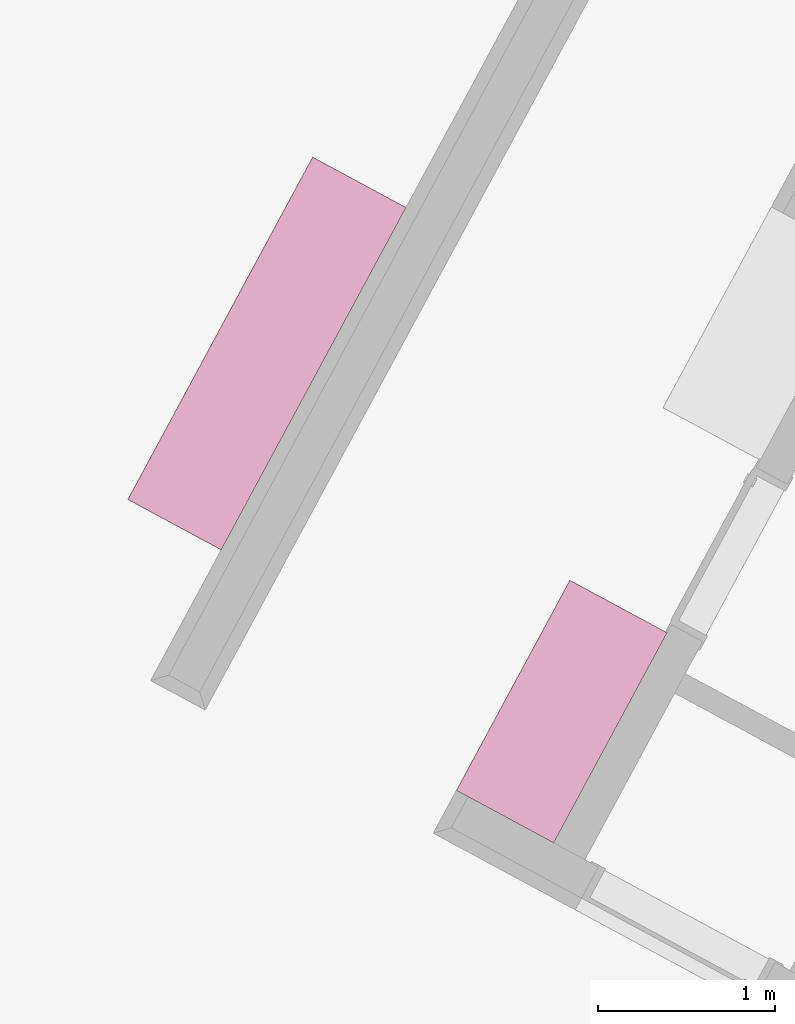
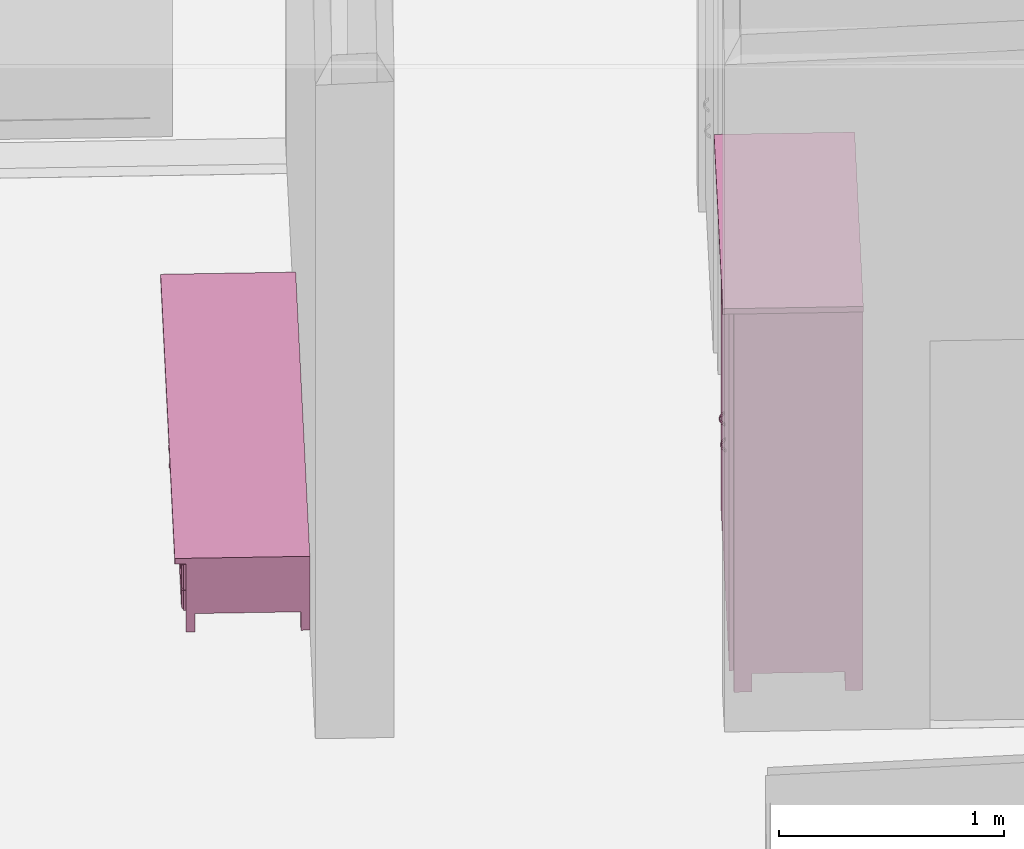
# One storey, part 29 of 36: 2 furnishings.
"""IFC2X3 building model written with IfcOpenShell, lengths in metres."""

from ifc_helpers import new_model, entity, si_unit, converted_unit, derived_unit, money_unit, direction, frame, origin_with_axes, place, context, subcontext, project, spatial, faceted_brep, type_object, element, save


model = new_model("IFC2X3")

# Units and contexts
model_context = context("Model", 3, precision=1e-05, world=origin_with_axes(), true_north=direction((0.0, 1.0)))
body_context = subcontext(model_context, "Body", "Model", "MODEL_VIEW")
ifc_project = project(units=[si_unit("LENGTHUNIT", "METRE"), si_unit("AREAUNIT", "SQUARE_METRE"), si_unit("VOLUMEUNIT", "CUBIC_METRE"), converted_unit("PLANEANGLEUNIT", "DEGREE", entity("IfcPlaneAngleMeasure", 0.0174532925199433), si_unit("PLANEANGLEUNIT", "RADIAN"), dimensions=[0, 0, 0, 0, 0, 0, 0]), money_unit("EUR"), converted_unit("TIMEUNIT", "Year", entity("IfcTimeMeasure", 31556926.0), si_unit("TIMEUNIT", "SECOND"), dimensions=[0, 0, 1, 0, 0, 0, 0]), si_unit("MASSUNIT", "GRAM", prefix="KILO"), si_unit("THERMODYNAMICTEMPERATUREUNIT", "DEGREE_CELSIUS"), si_unit("LUMINOUSINTENSITYUNIT", "LUMEN"), si_unit("ENERGYUNIT", "JOULE", prefix="MEGA"), derived_unit("THERMALCONDUCTANCEUNIT", [(si_unit("POWERUNIT", "WATT"), 1), (si_unit("LENGTHUNIT", "METRE"), -1), (si_unit("THERMODYNAMICTEMPERATUREUNIT", "KELVIN"), -1)]), derived_unit("SPECIFICHEATCAPACITYUNIT", [(si_unit("ENERGYUNIT", "JOULE"), 1), (si_unit("MASSUNIT", "GRAM", prefix="KILO"), -1), (si_unit("THERMODYNAMICTEMPERATUREUNIT", "KELVIN"), -1)]), derived_unit("MASSDENSITYUNIT", [(si_unit("MASSUNIT", "GRAM", prefix="KILO"), 1), (si_unit("VOLUMEUNIT", "CUBIC_METRE"), -1)])], contexts=[model_context])

# Site, building, storey
site_placement = place(None, frame((-3.949935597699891, 1.740105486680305, 0.0), z_axis=(0.0, 0.0, 1.0), x_axis=(0.8799804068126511, -0.475009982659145, 0.0)))
site = spatial("IfcSite", under=ifc_project, at=site_placement, Name="Gelände", CompositionType="ELEMENT")
building_placement = place(site_placement, origin_with_axes())
building = spatial("IfcBuilding", under=site, at=building_placement, Name="Gebäude", CompositionType="ELEMENT")
storey_placement = place(building_placement, origin_with_axes())
storey = spatial("IfcBuildingStorey", under=building, at=storey_placement, Name="Erdgeschoss", CompositionType="ELEMENT", Elevation=0.0)

# Furnishings
furniture_type_1 = type_object("IfcFurnitureType", Name="Kleiderschrank 22", AssemblyPlace="NOTDEFINED")
furnishing_1_placement = place(storey_placement, frame((15.16082818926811, 4.328482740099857, 0.0), z_axis=(0.0, 0.0, 1.0), x_axis=(0.0, -1.0, 0.0)))
element("IfcFurnishingElement", 1, at=furnishing_1_placement, inside=storey, type_object=furniture_type_1, Name="Objekt-0067", ObjectType="FURNITURE", context=body_context, shape_type="Brep", body=[
    faceted_brep([(0.05000000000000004, 0.6246501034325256, 0.12), (0.05000000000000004, 0.6046501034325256, 0.12), (0.05000000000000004, 0.6046501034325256, 2.05), (0.05000000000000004, 0.6246501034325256, 2.05), (1.3, 0.6246501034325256, 0.12), (1.3, 0.6046501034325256, 0.12), (1.3, 0.6046501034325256, 2.05), (1.3, 0.6246501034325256, 2.05)], [[[0, 1, 2, 3]], [[0, 4, 5, 1]], [[1, 5, 6, 2]], [[3, 2, 6, 7]], [[4, 0, 3, 7]], [[5, 4, 7, 6]]]),
    faceted_brep([(1.32, 0.05000000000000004, 0.1), (1.3, 0.05000000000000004, 0.1), (1.3, 0.6246501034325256, 0.1), (1.32, 0.6246501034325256, 0.1), (1.32, 0.05000000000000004, 2.07), (1.3, 0.05000000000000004, 2.07), (1.3, 0.6246501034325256, 2.07), (1.32, 0.6246501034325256, 2.07)], [[[0, 1, 2, 3]], [[1, 0, 4, 5]], [[2, 1, 5, 6]], [[3, 2, 6, 7]], [[0, 3, 7, 4]], [[5, 4, 7, 6]]]),
    faceted_brep([(0.05000000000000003, 0.05000000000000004, 0.1), (0.03000000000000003, 0.05000000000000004, 0.1), (0.03000000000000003, 0.6246501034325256, 0.1), (0.05000000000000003, 0.6246501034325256, 0.1), (0.05000000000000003, 0.05000000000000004, 2.07), (0.03000000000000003, 0.05000000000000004, 2.07), (0.03000000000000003, 0.6246501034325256, 2.07), (0.05000000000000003, 0.6246501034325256, 2.07)], [[[0, 1, 2, 3]], [[1, 0, 4, 5]], [[2, 1, 5, 6]], [[3, 2, 6, 7]], [[0, 3, 7, 4]], [[5, 4, 7, 6]]]),
    faceted_brep([(1.3, 0.05000000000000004, 0.1), (0.05000000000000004, 0.05000000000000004, 0.1), (0.05000000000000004, 0.6246501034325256, 0.1), (1.3, 0.6246501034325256, 0.1), (1.3, 0.05000000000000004, 0.12), (0.05000000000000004, 0.05000000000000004, 0.12), (0.05000000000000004, 0.6246501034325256, 0.12), (1.3, 0.6246501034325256, 0.12)], [[[0, 1, 2, 3]], [[1, 0, 4, 5]], [[2, 1, 5, 6]], [[3, 2, 6, 7]], [[0, 3, 7, 4]], [[5, 4, 7, 6]]]),
    faceted_brep([(1.3, 0.05000000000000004, 2.05), (0.05000000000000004, 0.05000000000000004, 2.05), (0.05000000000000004, 0.6246501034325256, 2.05), (1.3, 0.6246501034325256, 2.05), (1.3, 0.05000000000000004, 2.07), (0.05000000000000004, 0.05000000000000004, 2.07), (0.05000000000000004, 0.6246501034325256, 2.07), (1.3, 0.6246501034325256, 2.07)], [[[0, 1, 2, 3]], [[1, 0, 4, 5]], [[2, 1, 5, 6]], [[3, 2, 6, 7]], [[0, 3, 7, 4]], [[5, 4, 7, 6]]]),
    faceted_brep([(1.35, 0.6246501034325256, 2.07), (1.35, 0.6246501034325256, 2.1), (1.35, 0.0, 2.1), (1.35, 0.0, 2.07), (0.0, 0.6246501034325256, 2.07), (0.0, 0.6246501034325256, 2.1), (0.0, 0.0, 2.1), (0.0, 0.0, 2.07)], [[[0, 1, 2, 3]], [[4, 5, 1, 0]], [[1, 5, 6, 2]], [[3, 2, 6, 7]], [[0, 3, 7, 4]], [[7, 6, 5, 4]]]),
    faceted_brep([(0.1100000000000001, 0.5446501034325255, 0.0), (0.1100000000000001, 0.6246501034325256, 0.0), (0.1100000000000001, 0.6246501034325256, 0.1), (0.1100000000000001, 0.5446501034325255, 0.1), (0.03000000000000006, 0.5446501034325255, 0.0), (0.03000000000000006, 0.6246501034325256, 0.0), (0.03000000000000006, 0.6246501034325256, 0.1), (0.03000000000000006, 0.5446501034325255, 0.1)], [[[0, 1, 2, 3]], [[0, 4, 5, 1]], [[1, 5, 6, 2]], [[3, 2, 6, 7]], [[4, 0, 3, 7]], [[5, 4, 7, 6]]]),
    faceted_brep([(1.32, 0.5446501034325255, 0.0), (1.32, 0.6246501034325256, 0.0), (1.32, 0.6246501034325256, 0.1), (1.32, 0.5446501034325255, 0.1), (1.24, 0.5446501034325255, 0.0), (1.24, 0.6246501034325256, 0.0), (1.24, 0.6246501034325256, 0.1), (1.24, 0.5446501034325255, 0.1)], [[[0, 1, 2, 3]], [[0, 4, 5, 1]], [[1, 5, 6, 2]], [[3, 2, 6, 7]], [[4, 0, 3, 7]], [[5, 4, 7, 6]]]),
    faceted_brep([(0.1100000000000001, 0.05000000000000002, 0.0), (0.1100000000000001, 0.13, 0.0), (0.1100000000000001, 0.13, 0.1), (0.1100000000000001, 0.05000000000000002, 0.1), (0.03000000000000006, 0.05000000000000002, 0.0), (0.03000000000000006, 0.13, 0.0), (0.03000000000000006, 0.13, 0.1), (0.03000000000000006, 0.05000000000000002, 0.1)], [[[0, 1, 2, 3]], [[0, 4, 5, 1]], [[1, 5, 6, 2]], [[3, 2, 6, 7]], [[4, 0, 3, 7]], [[5, 4, 7, 6]]]),
    faceted_brep([(1.32, 0.05000000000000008, 0.0), (1.32, 0.1300000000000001, 0.0), (1.32, 0.1300000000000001, 0.1), (1.32, 0.05000000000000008, 0.1), (1.24, 0.05000000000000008, 0.0), (1.24, 0.1300000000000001, 0.0), (1.24, 0.1300000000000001, 0.1), (1.24, 0.05000000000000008, 0.1)], [[[0, 1, 2, 3]], [[0, 4, 5, 1]], [[1, 5, 6, 2]], [[3, 2, 6, 7]], [[4, 0, 3, 7]], [[5, 4, 7, 6]]]),
    faceted_brep([(0.04049999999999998, 0.05, 0.1104999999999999), (0.6744999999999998, 0.05, 0.1104999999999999), (0.6744999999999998, 0.03, 0.1104999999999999), (0.04049999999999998, 0.03, 0.1104999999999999), (0.04049999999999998, 0.05000000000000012, 2.0595), (0.6744999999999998, 0.05000000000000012, 2.0595), (0.6744999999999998, 0.03000000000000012, 2.0595), (0.04049999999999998, 0.03000000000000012, 2.0595)], [[[0, 1, 2, 3]], [[0, 4, 5, 1]], [[1, 5, 6, 2]], [[3, 2, 6, 7]], [[4, 0, 3, 7]], [[5, 4, 7, 6]]]),
    faceted_brep([(0.6119262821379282, 0.03, 0.955), (0.6119262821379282, 0.03, 0.965), (0.6239984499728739, 0.03, 0.965), (0.6239984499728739, 0.03, 0.955), (0.600825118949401, 0.01914952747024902, 0.965), (0.600825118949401, 0.01914952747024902, 0.955), (0.5471748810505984, 0.01914952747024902, 0.965), (0.5360737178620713, 0.03, 0.965), (0.5240015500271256, 0.03, 0.965), (0.5389716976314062, 0.01692943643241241, 0.965), (0.5559650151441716, 0.008772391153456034, 0.965), (0.5739999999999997, 0.006000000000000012, 0.965), (0.5920349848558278, 0.008772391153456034, 0.965), (0.6090283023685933, 0.01692943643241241, 0.965), (0.5878878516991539, 0.01232720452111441, 0.965), (0.5739999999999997, 0.009999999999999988, 0.965), (0.5601121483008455, 0.01232720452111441, 0.965), (0.6090283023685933, 0.01692943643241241, 0.955), (0.5920349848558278, 0.008772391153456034, 0.955), (0.5739999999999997, 0.006000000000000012, 0.955), (0.5559650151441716, 0.008772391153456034, 0.955), (0.5389716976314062, 0.01692943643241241, 0.955), (0.5240015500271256, 0.03, 0.955), (0.5360737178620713, 0.03, 0.955), (0.5471748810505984, 0.01914952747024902, 0.955), (0.5601121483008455, 0.01232720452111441, 0.955), (0.5739999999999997, 0.009999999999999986, 0.955), (0.5878878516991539, 0.01232720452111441, 0.955)], [[[0, 1, 2, 3]], [[4, 1, 0, 5]], [[6, 7, 8, 9, 10, 11, 12, 13, 2, 1, 4, 14, 15, 16]], [[13, 17, 3, 2]], [[5, 0, 3, 17, 18, 19, 20, 21, 22, 23, 24, 25, 26, 27]], [[14, 4, 5, 27]], [[7, 6, 24, 23]], [[7, 23, 22, 8]], [[8, 22, 21, 9]], [[9, 21, 20, 10]], [[10, 20, 19, 11]], [[11, 19, 18, 12]], [[12, 18, 17, 13]], [[15, 14, 27, 26]], [[16, 15, 26, 25]], [[6, 16, 25, 24]]]),
    faceted_brep([(0.6764999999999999, 0.05, 0.1104999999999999), (1.3105, 0.05, 0.1104999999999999), (1.3105, 0.03, 0.1104999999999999), (0.6764999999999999, 0.03, 0.1104999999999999), (0.6764999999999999, 0.05000000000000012, 2.0595), (1.3105, 0.05000000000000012, 2.0595), (1.3105, 0.03000000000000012, 2.0595), (0.6764999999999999, 0.03000000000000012, 2.0595)], [[[0, 1, 2, 3]], [[0, 4, 5, 1]], [[1, 5, 6, 2]], [[3, 2, 6, 7]], [[4, 0, 3, 7]], [[5, 4, 7, 6]]]),
    faceted_brep([(0.8139262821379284, 0.03, 0.955), (0.8139262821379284, 0.03, 0.965), (0.8259984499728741, 0.03, 0.965), (0.8259984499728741, 0.03, 0.955), (0.8028251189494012, 0.01914952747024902, 0.965), (0.8028251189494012, 0.01914952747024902, 0.955), (0.7491748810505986, 0.01914952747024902, 0.965), (0.7380737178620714, 0.03, 0.965), (0.7260015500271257, 0.03, 0.965), (0.7409716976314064, 0.01692943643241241, 0.965), (0.7579650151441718, 0.008772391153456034, 0.965), (0.7759999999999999, 0.006000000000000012, 0.965), (0.794034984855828, 0.008772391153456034, 0.965), (0.8110283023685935, 0.01692943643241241, 0.965), (0.7898878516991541, 0.01232720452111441, 0.965), (0.7759999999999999, 0.009999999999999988, 0.965), (0.7621121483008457, 0.01232720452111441, 0.965), (0.8110283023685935, 0.01692943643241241, 0.955), (0.794034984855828, 0.008772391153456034, 0.955), (0.7759999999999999, 0.006000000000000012, 0.955), (0.7579650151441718, 0.008772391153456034, 0.955), (0.7409716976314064, 0.01692943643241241, 0.955), (0.7260015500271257, 0.03, 0.955), (0.7380737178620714, 0.03, 0.955), (0.7491748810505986, 0.01914952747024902, 0.955), (0.7621121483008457, 0.01232720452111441, 0.955), (0.7759999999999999, 0.009999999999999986, 0.955), (0.7898878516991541, 0.01232720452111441, 0.955)], [[[0, 1, 2, 3]], [[4, 1, 0, 5]], [[6, 7, 8, 9, 10, 11, 12, 13, 2, 1, 4, 14, 15, 16]], [[17, 3, 2, 13]], [[5, 0, 3, 17, 18, 19, 20, 21, 22, 23, 24, 25, 26, 27]], [[14, 4, 5, 27]], [[7, 6, 24, 23]], [[7, 23, 22, 8]], [[22, 21, 9, 8]], [[21, 20, 10, 9]], [[20, 19, 11, 10]], [[19, 18, 12, 11]], [[18, 17, 13, 12]], [[15, 14, 27, 26]], [[16, 15, 26, 25]], [[6, 16, 25, 24]]]),
])
furniture_type_2 = type_object("IfcFurnitureType", Name="Sideboard 22", AssemblyPlace="NOTDEFINED")
furnishing_2_placement = place(storey_placement, frame((12.74418401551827, 5.743410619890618, 0.0), z_axis=(0.0, 0.0, 1.0), x_axis=(0.0, -1.0, 0.0)))
element("IfcFurnishingElement", 2, at=furnishing_2_placement, inside=storey, type_object=furniture_type_2, Name="Objekt-0067", ObjectType="FURNITURE", context=body_context, shape_type="Brep", body=[
    faceted_brep([(2.18, 0.5999999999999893, 0.12), (2.18, 0.5999999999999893, 0.35), (2.18, 0.5799999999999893, 0.35), (2.18, 0.5799999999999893, 0.12), (0.02000000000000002, 0.5999999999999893, 0.12), (0.02000000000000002, 0.5999999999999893, 0.35), (0.02000000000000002, 0.5799999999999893, 0.35), (0.02000000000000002, 0.5799999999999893, 0.12)], [[[0, 1, 2, 3]], [[4, 5, 1, 0]], [[1, 5, 6, 2]], [[3, 2, 6, 7]], [[0, 3, 7, 4]], [[7, 6, 5, 4]]]),
    faceted_brep([(0.0, 0.05000000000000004, 0.1), (0.0, 0.5999999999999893, 0.1), (0.02000000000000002, 0.5999999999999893, 0.1), (0.02000000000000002, 0.05000000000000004, 0.1), (0.0, 0.05000000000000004, 0.37), (0.0, 0.5999999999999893, 0.37), (0.02000000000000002, 0.5999999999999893, 0.37), (0.02000000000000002, 0.05000000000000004, 0.37)], [[[0, 1, 2, 3]], [[0, 4, 5, 1]], [[1, 5, 6, 2]], [[2, 6, 7, 3]], [[3, 7, 4, 0]], [[7, 6, 5, 4]]]),
    faceted_brep([(2.18, 0.05000000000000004, 0.1), (2.18, 0.5999999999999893, 0.1), (2.2, 0.5999999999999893, 0.1), (2.2, 0.05000000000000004, 0.1), (2.18, 0.05000000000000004, 0.37), (2.18, 0.5999999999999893, 0.37), (2.2, 0.5999999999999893, 0.37), (2.2, 0.05000000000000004, 0.37)], [[[0, 1, 2, 3]], [[0, 4, 5, 1]], [[1, 5, 6, 2]], [[2, 6, 7, 3]], [[3, 7, 4, 0]], [[7, 6, 5, 4]]]),
    faceted_brep([(0.02000000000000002, 0.05000000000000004, 0.1), (0.02000000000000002, 0.5999999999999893, 0.1), (2.18, 0.5999999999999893, 0.1), (2.18, 0.05000000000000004, 0.1), (0.02000000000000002, 0.05000000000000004, 0.12), (0.02000000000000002, 0.5999999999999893, 0.12), (2.18, 0.5999999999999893, 0.12), (2.18, 0.05000000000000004, 0.12)], [[[0, 1, 2, 3]], [[0, 4, 5, 1]], [[1, 5, 6, 2]], [[2, 6, 7, 3]], [[3, 7, 4, 0]], [[7, 6, 5, 4]]]),
    faceted_brep([(0.02000000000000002, 0.05000000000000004, 0.35), (0.02000000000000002, 0.5999999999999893, 0.35), (2.18, 0.5999999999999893, 0.35), (2.18, 0.05000000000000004, 0.35), (0.02000000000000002, 0.05000000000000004, 0.37), (0.02000000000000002, 0.5999999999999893, 0.37), (2.18, 0.5999999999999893, 0.37), (2.18, 0.05000000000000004, 0.37)], [[[0, 1, 2, 3]], [[0, 4, 5, 1]], [[1, 5, 6, 2]], [[2, 6, 7, 3]], [[3, 7, 4, 0]], [[7, 6, 5, 4]]]),
    faceted_brep([(0.0, 0.5999999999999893, 0.37), (0.0, 0.0, 0.37), (0.0, 0.0, 0.4), (0.0, 0.5999999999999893, 0.4), (2.2, 0.5999999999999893, 0.37), (2.2, 0.0, 0.37), (2.2, 0.0, 0.4), (2.2, 0.5999999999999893, 0.4)], [[[0, 1, 2, 3]], [[0, 4, 5, 1]], [[1, 5, 6, 2]], [[3, 2, 6, 7]], [[4, 0, 3, 7]], [[5, 4, 7, 6]]]),
    faceted_brep([(2.16, 0.5599999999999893, 0.0), (2.16, 0.5599999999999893, 0.1), (2.16, 0.5999999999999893, 0.1), (2.16, 0.5999999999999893, 0.0), (2.2, 0.5599999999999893, 0.0), (2.2, 0.5599999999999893, 0.1), (2.2, 0.5999999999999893, 0.1), (2.2, 0.5999999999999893, 0.0)], [[[0, 1, 2, 3]], [[4, 5, 1, 0]], [[1, 5, 6, 2]], [[3, 2, 6, 7]], [[0, 3, 7, 4]], [[7, 6, 5, 4]]]),
    faceted_brep([(0.0, 0.5599999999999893, 0.0), (0.0, 0.5599999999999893, 0.1), (0.0, 0.5999999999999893, 0.1), (0.0, 0.5999999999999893, 0.0), (0.04000000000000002, 0.5599999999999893, 0.0), (0.04000000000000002, 0.5599999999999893, 0.1), (0.04000000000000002, 0.5999999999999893, 0.1), (0.04000000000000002, 0.5999999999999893, 0.0)], [[[0, 1, 2, 3]], [[4, 5, 1, 0]], [[1, 5, 6, 2]], [[3, 2, 6, 7]], [[0, 3, 7, 4]], [[7, 6, 5, 4]]]),
    faceted_brep([(2.16, 0.05000000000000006, 0.0), (2.16, 0.05000000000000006, 0.1), (2.16, 0.09000000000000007, 0.1), (2.16, 0.09000000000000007, 0.0), (2.2, 0.05000000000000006, 0.0), (2.2, 0.05000000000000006, 0.1), (2.2, 0.09000000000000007, 0.1), (2.2, 0.09000000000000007, 0.0)], [[[0, 1, 2, 3]], [[4, 5, 1, 0]], [[1, 5, 6, 2]], [[3, 2, 6, 7]], [[0, 3, 7, 4]], [[7, 6, 5, 4]]]),
    faceted_brep([(0.0, 0.05000000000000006, 0.0), (0.0, 0.05000000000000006, 0.1), (0.0, 0.09000000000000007, 0.1), (0.0, 0.09000000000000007, 0.0), (0.04000000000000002, 0.05000000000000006, 0.0), (0.04000000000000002, 0.05000000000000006, 0.1), (0.04000000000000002, 0.09000000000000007, 0.1), (0.04000000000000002, 0.09000000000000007, 0.0)], [[[0, 1, 2, 3]], [[4, 5, 1, 0]], [[1, 5, 6, 2]], [[3, 2, 6, 7]], [[0, 3, 7, 4]], [[7, 6, 5, 4]]]),
    faceted_brep([(2.189, 0.05000000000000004, 0.111), (1.101, 0.05000000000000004, 0.111), (1.101, 0.05000000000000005, 0.219), (2.189, 0.05000000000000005, 0.219), (2.189000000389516, 0.04000000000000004, 0.1109999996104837), (1.100999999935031, 0.04000000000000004, 0.1109999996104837), (1.100999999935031, 0.04000000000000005, 0.2189999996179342), (2.189000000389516, 0.04000000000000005, 0.2189999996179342), (2.179000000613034, 0.03000000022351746, 0.1209999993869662), (1.110999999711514, 0.03000000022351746, 0.1209999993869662), (1.110999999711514, 0.03000000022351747, 0.2089999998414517), (2.179000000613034, 0.03000000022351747, 0.2089999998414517)], [[[0, 1, 2, 3]], [[0, 4, 5, 1]], [[1, 5, 6, 2]], [[2, 6, 7, 3]], [[3, 7, 4, 0]], [[4, 8, 9, 5]], [[5, 9, 10, 6]], [[6, 10, 11, 7]], [[7, 11, 8, 4]], [[10, 9, 8, 11]]]),
    faceted_brep([(1.160607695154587, 0.03000000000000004, 0.175), (1.159, 0.03000000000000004, 0.181), (1.160607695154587, 0.03000000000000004, 0.187), (1.165, 0.03000000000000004, 0.1913923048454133), (1.171, 0.03000000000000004, 0.193), (1.177, 0.03000000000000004, 0.1913923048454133), (1.181392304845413, 0.03000000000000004, 0.187), (1.183, 0.03000000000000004, 0.181), (1.181392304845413, 0.03000000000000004, 0.175), (1.177, 0.03000000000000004, 0.1706076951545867), (1.171, 0.03000000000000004, 0.169), (1.165, 0.03000000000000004, 0.1706076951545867), (1.160607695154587, 0.005000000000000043, 0.175), (1.159, 0.005000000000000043, 0.181), (1.160607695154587, 0.005000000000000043, 0.187), (1.165, 0.005000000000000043, 0.1913923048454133), (1.171, 0.005000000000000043, 0.193), (1.177, 0.005000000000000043, 0.1913923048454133), (1.181392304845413, 0.005000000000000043, 0.187), (1.183, 0.005000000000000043, 0.181), (1.181392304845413, 0.005000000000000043, 0.175), (1.177, 0.005000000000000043, 0.1706076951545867), (1.171, 0.005000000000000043, 0.169), (1.165, 0.005000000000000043, 0.1706076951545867)], [[[0, 1, 2, 3, 4, 5, 6, 7, 8, 9, 10, 11]], [[0, 12, 13, 1]], [[1, 13, 14, 2]], [[2, 14, 15, 3]], [[3, 15, 16, 4]], [[4, 16, 17, 5]], [[5, 17, 18, 6]], [[6, 18, 19, 7]], [[7, 19, 20, 8]], [[8, 20, 21, 9]], [[9, 21, 22, 10]], [[10, 22, 23, 11]], [[11, 23, 12, 0]], [[12, 23, 22, 21, 20, 19, 18, 17, 16, 15, 14, 13]]]),
    faceted_brep([(0.0109999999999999, 0.05000000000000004, 0.111), (0.0109999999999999, 0.05000000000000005, 0.219), (1.099, 0.05000000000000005, 0.219), (1.099, 0.05000000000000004, 0.111), (0.01099999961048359, 0.04000000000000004, 0.1109999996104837), (0.01099999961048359, 0.04000000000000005, 0.2189999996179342), (1.099000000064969, 0.04000000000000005, 0.2189999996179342), (1.099000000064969, 0.04000000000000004, 0.1109999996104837), (0.02099999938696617, 0.03000000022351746, 0.1209999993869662), (0.02099999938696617, 0.03000000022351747, 0.2089999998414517), (1.089000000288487, 0.03000000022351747, 0.2089999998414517), (1.089000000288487, 0.03000000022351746, 0.1209999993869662)], [[[0, 1, 2, 3]], [[1, 0, 4, 5]], [[2, 1, 5, 6]], [[3, 2, 6, 7]], [[0, 3, 7, 4]], [[5, 4, 8, 9]], [[6, 5, 9, 10]], [[7, 6, 10, 11]], [[4, 7, 11, 8]], [[10, 9, 8, 11]]]),
    faceted_brep([(1.039392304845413, 0.03000000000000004, 0.175), (1.035, 0.03000000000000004, 0.1706076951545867), (1.029, 0.03000000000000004, 0.169), (1.023, 0.03000000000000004, 0.1706076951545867), (1.018607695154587, 0.03000000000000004, 0.175), (1.017, 0.03000000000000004, 0.181), (1.018607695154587, 0.03000000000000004, 0.187), (1.023, 0.03000000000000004, 0.1913923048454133), (1.029, 0.03000000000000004, 0.193), (1.035, 0.03000000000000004, 0.1913923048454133), (1.039392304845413, 0.03000000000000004, 0.187), (1.041, 0.03000000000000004, 0.181), (1.039392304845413, 0.005000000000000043, 0.175), (1.035, 0.005000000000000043, 0.1706076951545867), (1.029, 0.005000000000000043, 0.169), (1.023, 0.005000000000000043, 0.1706076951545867), (1.018607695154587, 0.005000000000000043, 0.175), (1.017, 0.005000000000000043, 0.181), (1.018607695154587, 0.005000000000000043, 0.187), (1.023, 0.005000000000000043, 0.1913923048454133), (1.029, 0.005000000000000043, 0.193), (1.035, 0.005000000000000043, 0.1913923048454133), (1.039392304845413, 0.005000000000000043, 0.187), (1.041, 0.005000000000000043, 0.181)], [[[0, 1, 2, 3, 4, 5, 6, 7, 8, 9, 10, 11]], [[1, 0, 12, 13]], [[2, 1, 13, 14]], [[3, 2, 14, 15]], [[4, 3, 15, 16]], [[5, 4, 16, 17]], [[6, 5, 17, 18]], [[7, 6, 18, 19]], [[8, 7, 19, 20]], [[9, 8, 20, 21]], [[10, 9, 21, 22]], [[11, 10, 22, 23]], [[0, 11, 23, 12]], [[12, 23, 22, 21, 20, 19, 18, 17, 16, 15, 14, 13]]]),
    faceted_brep([(2.189000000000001, 0.05000000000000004, 0.221), (1.464333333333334, 0.05000000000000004, 0.221), (1.464333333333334, 0.05000000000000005, 0.359), (2.189000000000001, 0.05000000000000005, 0.359), (2.189000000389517, 0.04000000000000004, 0.2209999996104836), (1.464333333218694, 0.04000000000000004, 0.2209999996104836), (1.464333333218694, 0.04000000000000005, 0.3589999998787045), (2.189000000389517, 0.04000000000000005, 0.3589999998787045), (2.179000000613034, 0.03000000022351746, 0.2309999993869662), (1.474333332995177, 0.03000000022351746, 0.2309999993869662), (1.474333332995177, 0.03000000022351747, 0.3490000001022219), (2.179000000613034, 0.03000000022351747, 0.3490000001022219)], [[[0, 1, 2, 3]], [[0, 4, 5, 1]], [[1, 5, 6, 2]], [[2, 6, 7, 3]], [[3, 7, 4, 0]], [[4, 8, 9, 5]], [[5, 9, 10, 6]], [[6, 10, 11, 7]], [[7, 11, 8, 4]], [[10, 9, 8, 11]]]),
    faceted_brep([(1.816274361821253, 0.03000000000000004, 0.284), (1.814666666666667, 0.03000000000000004, 0.29), (1.816274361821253, 0.03000000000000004, 0.296), (1.820666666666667, 0.03000000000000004, 0.3003923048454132), (1.826666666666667, 0.03000000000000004, 0.302), (1.832666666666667, 0.03000000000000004, 0.3003923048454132), (1.83705897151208, 0.03000000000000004, 0.296), (1.838666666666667, 0.03000000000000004, 0.29), (1.83705897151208, 0.03000000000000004, 0.284), (1.832666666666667, 0.03000000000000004, 0.2796076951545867), (1.826666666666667, 0.03000000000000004, 0.278), (1.820666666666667, 0.03000000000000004, 0.2796076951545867), (1.816274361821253, 0.005000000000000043, 0.284), (1.814666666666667, 0.005000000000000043, 0.29), (1.816274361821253, 0.005000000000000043, 0.296), (1.820666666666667, 0.005000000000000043, 0.3003923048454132), (1.826666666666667, 0.005000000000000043, 0.302), (1.832666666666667, 0.005000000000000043, 0.3003923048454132), (1.83705897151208, 0.005000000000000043, 0.296), (1.838666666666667, 0.005000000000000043, 0.29), (1.83705897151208, 0.005000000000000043, 0.284), (1.832666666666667, 0.005000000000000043, 0.2796076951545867), (1.826666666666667, 0.005000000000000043, 0.278), (1.820666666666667, 0.005000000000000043, 0.2796076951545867)], [[[0, 1, 2, 3, 4, 5, 6, 7, 8, 9, 10, 11]], [[0, 12, 13, 1]], [[1, 13, 14, 2]], [[2, 14, 15, 3]], [[3, 15, 16, 4]], [[4, 16, 17, 5]], [[5, 17, 18, 6]], [[6, 18, 19, 7]], [[7, 19, 20, 8]], [[8, 20, 21, 9]], [[9, 21, 22, 10]], [[10, 22, 23, 11]], [[11, 23, 12, 0]], [[12, 23, 22, 21, 20, 19, 18, 17, 16, 15, 14, 13]]]),
    faceted_brep([(1.462333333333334, 0.05000000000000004, 0.221), (0.7376666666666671, 0.05000000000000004, 0.221), (0.7376666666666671, 0.05000000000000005, 0.359), (1.462333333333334, 0.05000000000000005, 0.359), (1.46233333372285, 0.04000000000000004, 0.2209999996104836), (0.7376666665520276, 0.04000000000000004, 0.2209999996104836), (0.7376666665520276, 0.04000000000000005, 0.3589999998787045), (1.46233333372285, 0.04000000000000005, 0.3589999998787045), (1.452333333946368, 0.03000000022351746, 0.2309999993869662), (0.7476666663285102, 0.03000000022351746, 0.2309999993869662), (0.7476666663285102, 0.03000000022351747, 0.3490000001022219), (1.452333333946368, 0.03000000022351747, 0.3490000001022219)], [[[0, 1, 2, 3]], [[0, 4, 5, 1]], [[1, 5, 6, 2]], [[2, 6, 7, 3]], [[3, 7, 4, 0]], [[4, 8, 9, 5]], [[5, 9, 10, 6]], [[6, 10, 11, 7]], [[7, 11, 8, 4]], [[10, 9, 8, 11]]]),
    faceted_brep([(1.089607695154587, 0.03000000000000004, 0.284), (1.088, 0.03000000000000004, 0.29), (1.089607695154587, 0.03000000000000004, 0.296), (1.094, 0.03000000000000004, 0.3003923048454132), (1.1, 0.03000000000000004, 0.302), (1.106, 0.03000000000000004, 0.3003923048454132), (1.110392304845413, 0.03000000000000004, 0.296), (1.112, 0.03000000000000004, 0.29), (1.110392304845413, 0.03000000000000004, 0.284), (1.106, 0.03000000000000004, 0.2796076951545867), (1.1, 0.03000000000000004, 0.278), (1.094, 0.03000000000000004, 0.2796076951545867), (1.089607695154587, 0.005000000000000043, 0.284), (1.088, 0.005000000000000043, 0.29), (1.089607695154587, 0.005000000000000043, 0.296), (1.094, 0.005000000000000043, 0.3003923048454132), (1.1, 0.005000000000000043, 0.302), (1.106, 0.005000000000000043, 0.3003923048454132), (1.110392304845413, 0.005000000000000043, 0.296), (1.112, 0.005000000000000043, 0.29), (1.110392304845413, 0.005000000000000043, 0.284), (1.106, 0.005000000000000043, 0.2796076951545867), (1.1, 0.005000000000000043, 0.278), (1.094, 0.005000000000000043, 0.2796076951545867)], [[[0, 1, 2, 3, 4, 5, 6, 7, 8, 9, 10, 11]], [[0, 12, 13, 1]], [[1, 13, 14, 2]], [[2, 14, 15, 3]], [[3, 15, 16, 4]], [[4, 16, 17, 5]], [[5, 17, 18, 6]], [[6, 18, 19, 7]], [[7, 19, 20, 8]], [[8, 20, 21, 9]], [[9, 21, 22, 10]], [[10, 22, 23, 11]], [[11, 23, 12, 0]], [[12, 23, 22, 21, 20, 19, 18, 17, 16, 15, 14, 13]]]),
    faceted_brep([(0.7356666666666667, 0.05000000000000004, 0.221), (0.01100000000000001, 0.05000000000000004, 0.221), (0.01100000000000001, 0.05000000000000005, 0.359), (0.7356666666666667, 0.05000000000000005, 0.359), (0.7356666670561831, 0.04000000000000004, 0.2209999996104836), (0.01099999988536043, 0.04000000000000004, 0.2209999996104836), (0.01099999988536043, 0.04000000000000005, 0.3589999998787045), (0.7356666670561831, 0.04000000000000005, 0.3589999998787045), (0.7256666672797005, 0.03000000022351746, 0.2309999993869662), (0.02099999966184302, 0.03000000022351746, 0.2309999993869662), (0.02099999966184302, 0.03000000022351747, 0.3490000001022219), (0.7256666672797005, 0.03000000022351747, 0.3490000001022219)], [[[0, 1, 2, 3]], [[0, 4, 5, 1]], [[1, 5, 6, 2]], [[2, 6, 7, 3]], [[3, 7, 4, 0]], [[4, 8, 9, 5]], [[5, 9, 10, 6]], [[6, 10, 11, 7]], [[7, 11, 8, 4]], [[10, 9, 8, 11]]]),
    faceted_brep([(0.3629410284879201, 0.03000000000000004, 0.284), (0.3613333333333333, 0.03000000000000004, 0.29), (0.3629410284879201, 0.03000000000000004, 0.296), (0.3673333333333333, 0.03000000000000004, 0.3003923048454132), (0.3733333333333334, 0.03000000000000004, 0.302), (0.3793333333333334, 0.03000000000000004, 0.3003923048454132), (0.3837256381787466, 0.03000000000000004, 0.296), (0.3853333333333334, 0.03000000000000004, 0.29), (0.3837256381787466, 0.03000000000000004, 0.284), (0.3793333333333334, 0.03000000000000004, 0.2796076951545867), (0.3733333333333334, 0.03000000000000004, 0.278), (0.3673333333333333, 0.03000000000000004, 0.2796076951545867), (0.3629410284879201, 0.005000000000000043, 0.284), (0.3613333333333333, 0.005000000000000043, 0.29), (0.3629410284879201, 0.005000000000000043, 0.296), (0.3673333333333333, 0.005000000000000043, 0.3003923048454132), (0.3733333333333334, 0.005000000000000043, 0.302), (0.3793333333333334, 0.005000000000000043, 0.3003923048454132), (0.3837256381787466, 0.005000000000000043, 0.296), (0.3853333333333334, 0.005000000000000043, 0.29), (0.3837256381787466, 0.005000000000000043, 0.284), (0.3793333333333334, 0.005000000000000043, 0.2796076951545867), (0.3733333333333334, 0.005000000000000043, 0.278), (0.3673333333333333, 0.005000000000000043, 0.2796076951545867)], [[[0, 1, 2, 3, 4, 5, 6, 7, 8, 9, 10, 11]], [[0, 12, 13, 1]], [[1, 13, 14, 2]], [[2, 14, 15, 3]], [[3, 15, 16, 4]], [[4, 16, 17, 5]], [[5, 17, 18, 6]], [[6, 18, 19, 7]], [[7, 19, 20, 8]], [[8, 20, 21, 9]], [[9, 21, 22, 10]], [[10, 22, 23, 11]], [[11, 23, 12, 0]], [[12, 23, 22, 21, 20, 19, 18, 17, 16, 15, 14, 13]]]),
])

save(model, "model.ifc")
